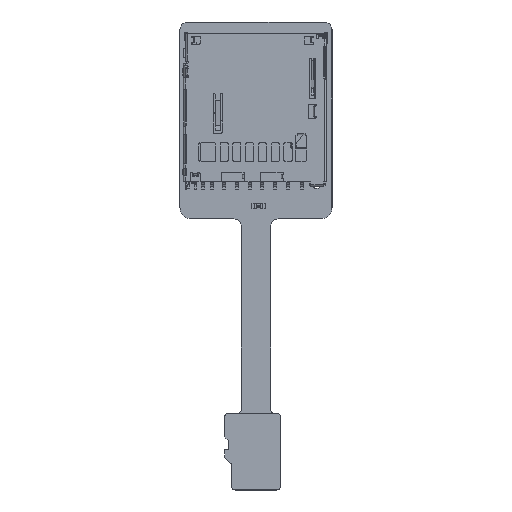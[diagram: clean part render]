
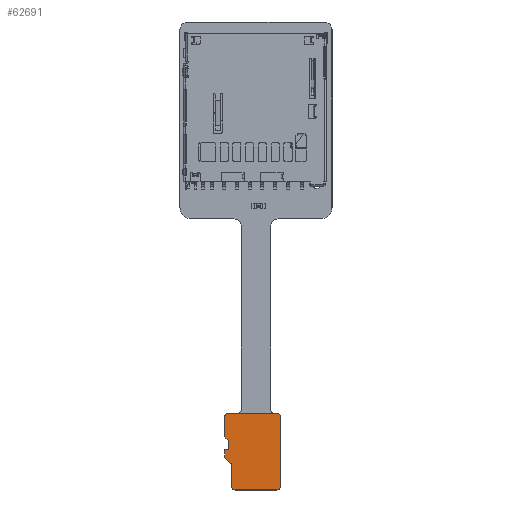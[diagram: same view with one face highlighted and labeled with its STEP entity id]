
A CAD part, top view. The second image highlights one B-rep face of the part: STEP entity #62691.
In plain terms, the highlighted planar face has unit normal (0, 0, 1).
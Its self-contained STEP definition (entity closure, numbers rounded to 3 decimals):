
#62166 = VERTEX_POINT('',#62167);
#62167 = CARTESIAN_POINT('',(19.161,28.549,0.6));
#62173 = EDGE_CURVE('',#62174,#62166,#62176,.T.);
#62174 = VERTEX_POINT('',#62175);
#62175 = CARTESIAN_POINT('',(19.961,29.349,0.6));
#62176 = CIRCLE('',#62177,0.8);
#62177 = AXIS2_PLACEMENT_3D('',#62178,#62179,#62180);
#62178 = CARTESIAN_POINT('',(19.961,28.549,0.6));
#62179 = DIRECTION('',(0.,0.,1.));
#62180 = DIRECTION('',(1.,0.,0.));
#62205 = VERTEX_POINT('',#62206);
#62206 = CARTESIAN_POINT('',(19.161,15.149,0.6));
#62212 = EDGE_CURVE('',#62166,#62205,#62213,.T.);
#62213 = LINE('',#62214,#62215);
#62214 = CARTESIAN_POINT('',(19.161,28.549,0.6));
#62215 = VECTOR('',#62216,1.);
#62216 = DIRECTION('',(0.,-1.,0.));
#62237 = VERTEX_POINT('',#62238);
#62238 = CARTESIAN_POINT('',(19.961,14.349,0.6));
#62244 = EDGE_CURVE('',#62205,#62237,#62245,.T.);
#62245 = CIRCLE('',#62246,0.8);
#62246 = AXIS2_PLACEMENT_3D('',#62247,#62248,#62249);
#62247 = CARTESIAN_POINT('',(19.961,15.149,0.6));
#62248 = DIRECTION('',(0.,0.,1.));
#62249 = DIRECTION('',(1.,0.,0.));
#62269 = VERTEX_POINT('',#62270);
#62270 = CARTESIAN_POINT('',(29.361,14.349,0.6));
#62276 = EDGE_CURVE('',#62237,#62269,#62277,.T.);
#62277 = LINE('',#62278,#62279);
#62278 = CARTESIAN_POINT('',(19.961,14.349,0.6));
#62279 = VECTOR('',#62280,1.);
#62280 = DIRECTION('',(1.,0.,0.));
#62301 = VERTEX_POINT('',#62302);
#62302 = CARTESIAN_POINT('',(30.161,15.149,0.6));
#62308 = EDGE_CURVE('',#62269,#62301,#62309,.T.);
#62309 = CIRCLE('',#62310,0.8);
#62310 = AXIS2_PLACEMENT_3D('',#62311,#62312,#62313);
#62311 = CARTESIAN_POINT('',(29.361,15.149,0.6));
#62312 = DIRECTION('',(0.,0.,1.));
#62313 = DIRECTION('',(1.,0.,0.));
#62333 = VERTEX_POINT('',#62334);
#62334 = CARTESIAN_POINT('',(30.161,18.949,0.6));
#62340 = EDGE_CURVE('',#62301,#62333,#62341,.T.);
#62341 = LINE('',#62342,#62343);
#62342 = CARTESIAN_POINT('',(30.161,18.949,0.6));
#62343 = VECTOR('',#62344,1.);
#62344 = DIRECTION('',(0.,1.,0.));
#62364 = VERTEX_POINT('',#62365);
#62365 = CARTESIAN_POINT('',(29.419,19.69,0.6));
#62371 = EDGE_CURVE('',#62333,#62364,#62372,.T.);
#62372 = LINE('',#62373,#62374);
#62373 = CARTESIAN_POINT('',(30.161,18.949,0.6));
#62374 = VECTOR('',#62375,1.);
#62375 = DIRECTION('',(-0.707,0.707,0.));
#62396 = VERTEX_POINT('',#62397);
#62397 = CARTESIAN_POINT('',(29.361,19.832,0.6));
#62403 = EDGE_CURVE('',#62364,#62396,#62404,.T.);
#62404 = CIRCLE('',#62405,0.2);
#62405 = AXIS2_PLACEMENT_3D('',#62406,#62407,#62408);
#62406 = CARTESIAN_POINT('',(29.561,19.832,0.6));
#62407 = DIRECTION('',(0.,0.,-1.));
#62408 = DIRECTION('',(1.,0.,0.));
#62428 = VERTEX_POINT('',#62429);
#62429 = CARTESIAN_POINT('',(29.361,21.249,0.6));
#62435 = EDGE_CURVE('',#62396,#62428,#62436,.T.);
#62436 = LINE('',#62437,#62438);
#62437 = CARTESIAN_POINT('',(29.361,21.249,0.6));
#62438 = VECTOR('',#62439,1.);
#62439 = DIRECTION('',(0.,1.,0.));
#62451 = EDGE_CURVE('',#62428,#62452,#62454,.T.);
#62452 = VERTEX_POINT('',#62453);
#62453 = CARTESIAN_POINT('',(29.561,21.449,0.6));
#62454 = CIRCLE('',#62455,0.2);
#62455 = AXIS2_PLACEMENT_3D('',#62456,#62457,#62458);
#62456 = CARTESIAN_POINT('',(29.561,21.249,0.6));
#62457 = DIRECTION('',(0.,0.,-1.));
#62458 = DIRECTION('',(1.,0.,0.));
#62492 = VERTEX_POINT('',#62493);
#62493 = CARTESIAN_POINT('',(30.161,21.449,0.6));
#62499 = EDGE_CURVE('',#62452,#62492,#62500,.T.);
#62500 = LINE('',#62501,#62502);
#62501 = CARTESIAN_POINT('',(30.161,21.449,0.6));
#62502 = VECTOR('',#62503,1.);
#62503 = DIRECTION('',(1.,0.,0.));
#62523 = VERTEX_POINT('',#62524);
#62524 = CARTESIAN_POINT('',(30.161,22.949,0.6));
#62530 = EDGE_CURVE('',#62492,#62523,#62531,.T.);
#62531 = LINE('',#62532,#62533);
#62532 = CARTESIAN_POINT('',(30.161,22.949,0.6));
#62533 = VECTOR('',#62534,1.);
#62534 = DIRECTION('',(0.,1.,0.));
#62554 = VERTEX_POINT('',#62555);
#62555 = CARTESIAN_POINT('',(28.919,24.19,0.6));
#62561 = EDGE_CURVE('',#62523,#62554,#62562,.T.);
#62562 = LINE('',#62563,#62564);
#62563 = CARTESIAN_POINT('',(30.161,22.949,0.6));
#62564 = VECTOR('',#62565,1.);
#62565 = DIRECTION('',(-0.707,0.707,0.));
#62586 = VERTEX_POINT('',#62587);
#62587 = CARTESIAN_POINT('',(28.861,24.332,0.6));
#62593 = EDGE_CURVE('',#62554,#62586,#62594,.T.);
#62594 = CIRCLE('',#62595,0.2);
#62595 = AXIS2_PLACEMENT_3D('',#62596,#62597,#62598);
#62596 = CARTESIAN_POINT('',(29.061,24.332,0.6));
#62597 = DIRECTION('',(0.,0.,-1.));
#62598 = DIRECTION('',(1.,0.,0.));
#62618 = VERTEX_POINT('',#62619);
#62619 = CARTESIAN_POINT('',(28.861,28.549,0.6));
#62625 = EDGE_CURVE('',#62586,#62618,#62626,.T.);
#62626 = LINE('',#62627,#62628);
#62627 = CARTESIAN_POINT('',(28.861,28.549,0.6));
#62628 = VECTOR('',#62629,1.);
#62629 = DIRECTION('',(0.,1.,0.));
#62650 = VERTEX_POINT('',#62651);
#62651 = CARTESIAN_POINT('',(28.061,29.349,0.6));
#62657 = EDGE_CURVE('',#62618,#62650,#62658,.T.);
#62658 = CIRCLE('',#62659,0.8);
#62659 = AXIS2_PLACEMENT_3D('',#62660,#62661,#62662);
#62660 = CARTESIAN_POINT('',(28.061,28.549,0.6));
#62661 = DIRECTION('',(0.,0.,1.));
#62662 = DIRECTION('',(1.,0.,0.));
#62680 = EDGE_CURVE('',#62650,#62174,#62681,.T.);
#62681 = LINE('',#62682,#62683);
#62682 = CARTESIAN_POINT('',(19.961,29.349,0.6));
#62683 = VECTOR('',#62684,1.);
#62684 = DIRECTION('',(-1.,0.,0.));
#62691 = ADVANCED_FACE('',(#62692),#62711,.T.);
#62692 = FACE_BOUND('',#62693,.T.);
#62693 = EDGE_LOOP('',(#62694,#62695,#62696,#62697,#62698,#62699,#62700,
    #62701,#62702,#62703,#62704,#62705,#62706,#62707,#62708,#62709,
    #62710));
#62694 = ORIENTED_EDGE('',*,*,#62173,.T.);
#62695 = ORIENTED_EDGE('',*,*,#62212,.T.);
#62696 = ORIENTED_EDGE('',*,*,#62244,.T.);
#62697 = ORIENTED_EDGE('',*,*,#62276,.T.);
#62698 = ORIENTED_EDGE('',*,*,#62308,.T.);
#62699 = ORIENTED_EDGE('',*,*,#62340,.T.);
#62700 = ORIENTED_EDGE('',*,*,#62371,.T.);
#62701 = ORIENTED_EDGE('',*,*,#62403,.T.);
#62702 = ORIENTED_EDGE('',*,*,#62435,.T.);
#62703 = ORIENTED_EDGE('',*,*,#62451,.T.);
#62704 = ORIENTED_EDGE('',*,*,#62499,.T.);
#62705 = ORIENTED_EDGE('',*,*,#62530,.T.);
#62706 = ORIENTED_EDGE('',*,*,#62561,.T.);
#62707 = ORIENTED_EDGE('',*,*,#62593,.T.);
#62708 = ORIENTED_EDGE('',*,*,#62625,.T.);
#62709 = ORIENTED_EDGE('',*,*,#62657,.T.);
#62710 = ORIENTED_EDGE('',*,*,#62680,.T.);
#62711 = PLANE('',#62712);
#62712 = AXIS2_PLACEMENT_3D('',#62713,#62714,#62715);
#62713 = CARTESIAN_POINT('',(19.961,28.549,0.6));
#62714 = DIRECTION('',(0.,0.,1.));
#62715 = DIRECTION('',(1.,0.,0.));
